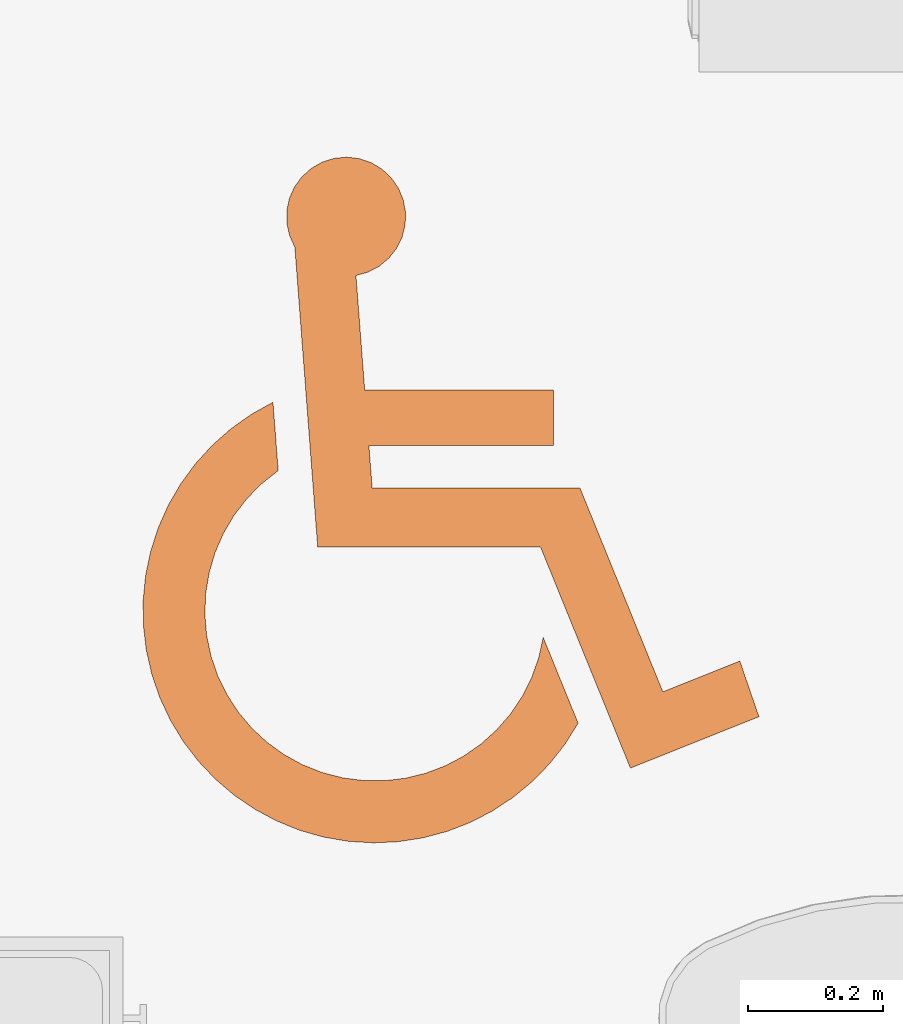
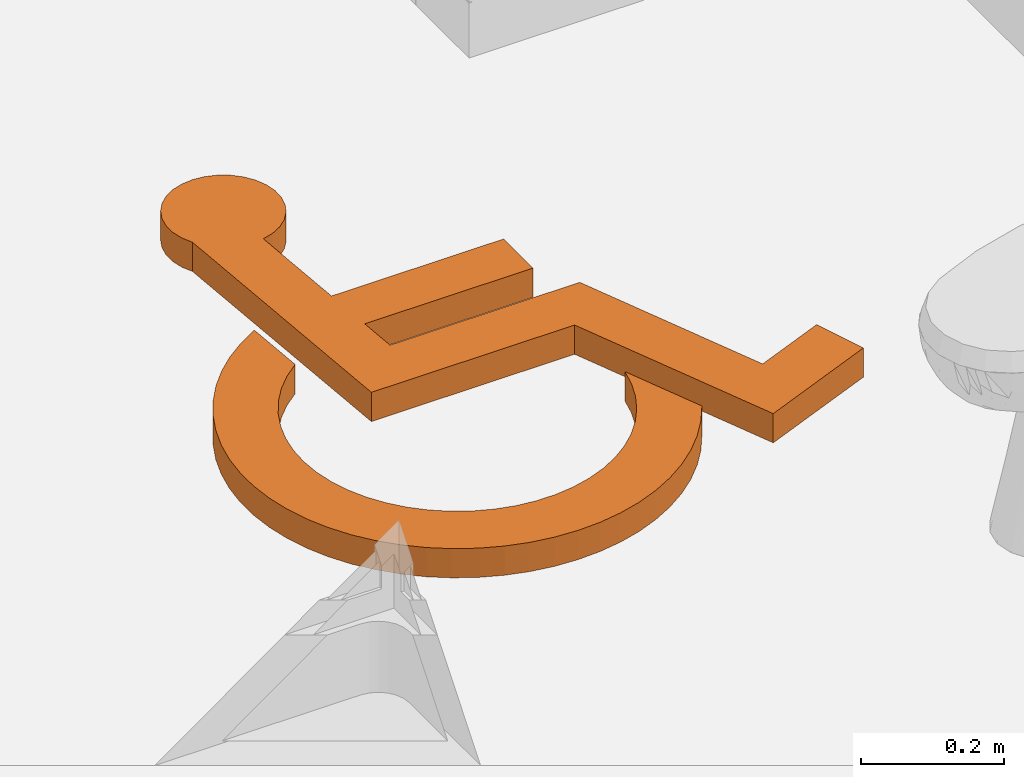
# One storey, part 43 of 44: 1 proxy.
"""IFC2X3 building model written with IfcOpenShell, lengths in millimetres."""

from ifc_helpers import new_model, entity, si_unit, converted_unit, direction, frame, frame_2d, origin, place, context, subcontext, project, spatial, polyline, circle_curve, parameter, trimmed, segment, composite_curve, outline, extrude, source, transform, mapped, material, type_object, type_shapes, element, save


model = new_model("IFC2X3")

# Units and contexts
model_context = context("Model", 3, precision=0.01, world=origin(), true_north=direction((0.0, 1.0)))
body_context = subcontext(model_context, "Body", "Model", "MODEL_VIEW")
ifc_project = project(units=[si_unit("LENGTHUNIT", "METRE", prefix="MILLI"), si_unit("AREAUNIT", "SQUARE_METRE"), si_unit("VOLUMEUNIT", "CUBIC_METRE"), converted_unit("PLANEANGLEUNIT", "DEGREE", entity("IfcPlaneAngleMeasure", 0.017453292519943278), si_unit("PLANEANGLEUNIT", "RADIAN"), dimensions=[0, 0, 0, 0, 0, 0, 0])], contexts=[model_context])

# Site, building, storey, space
site_placement = place(None, origin())
site = spatial("IfcSite", under=ifc_project, at=site_placement, Name="Default", CompositionType="ELEMENT")
building_placement = place(site_placement, origin())
building = spatial("IfcBuilding", under=site, at=building_placement, CompositionType="ELEMENT")
storey_placement = place(building_placement, frame((0.0, 0.0, 2681.0)))
storey = spatial("IfcBuildingStorey", under=building, at=storey_placement, Name="Et. 2", CompositionType="ELEMENT", Elevation=2681.0)
space_placement = place(storey_placement, origin())
space = spatial("IfcSpace", under=storey, at=space_placement, Name="207", CompositionType="ELEMENT", InteriorOrExteriorSpace="INTERNAL")

# Proxy
ifc_material = material(Name="<Unnamed>")
building_element_proxy_type = type_object("IfcBuildingElementProxyType", Name="HC-Sirkel:HC-Sirkel 1500", PredefinedType="NOTDEFINED", material=ifc_material)
shared_shape = source(origin(), body_context, "Body", "SweptSolid", [
    extrude(outline(composite_curve([segment(polyline([(73.08456968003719, 24.171348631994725), (425.99666421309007, 24.171348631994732)]), True, "CONTINUOUS"), segment(polyline([(425.99666421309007, 24.171348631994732), (427.1926952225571, 228.68994682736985)]), True, "CONTINUOUS"), segment(polyline([(427.1926952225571, 228.68994682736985), (340.35156526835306, 233.53866508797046)]), True, "CONTINUOUS"), segment(polyline([(340.35156526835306, 233.53866508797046), (339.63518552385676, 111.0393486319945)]), True, "CONTINUOUS"), segment(polyline([(339.6351855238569, 111.03934863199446), (14.63240316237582, 111.0393486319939)]), True, "CONTINUOUS"), segment(polyline([(14.63240316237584, 111.03934863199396), (-101.05350558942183, -173.4621822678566)]), True, "CONTINUOUS"), segment(polyline([(-101.05350558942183, -173.4621822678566), (-161.10905457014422, -154.21614490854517)]), True, "CONTINUOUS"), segment(polyline([(-161.10905457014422, -154.21614490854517), (-58.48199197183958, 98.17031024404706)]), True, "CONTINUOUS"), segment(polyline([(-58.48199197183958, 98.17031024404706), (-134.6802137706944, 129.15453906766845)]), True, "CONTINUOUS"), segment(polyline([(-134.6802137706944, 129.15453906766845), (-239.66899573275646, -129.0399940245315)]), True, "CONTINUOUS"), segment(polyline([(-239.66899573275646, -129.0399940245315), (-401.0728035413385, -77.3148201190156)]), True, "CONTINUOUS"), segment(trimmed(circle_curve(frame_2d((-487.01248088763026, -58.10761128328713), x_axis=(0.37667652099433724, 0.9263448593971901)), 88.05989446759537), [parameter(279.52961143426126)], [parameter(210.67771042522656)], True, "PARAMETER"), True, "CONTINUOUS"), segment(polyline([(-473.920796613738, -145.1889113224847), (-50.905721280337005, -280.7528031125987)]), True, "CONTINUOUS"), segment(polyline([(-50.905721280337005, -280.7528031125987), (73.08456968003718, 24.171348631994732)]), True, "CONTINUOUS")], self_intersect=False)), frame((126.0677393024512, 10.200709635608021, 0.0), z_axis=(0.0, 0.0, 1.0), x_axis=(0.3766765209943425, -0.9263448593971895, 0.0)), (0.0, 0.0, 1.0), 49.99999999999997),
    extrude(outline(composite_curve([segment(trimmed(circle_curve(frame_2d((-72.25049651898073, -69.30966368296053), x_axis=(-0.07600280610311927, 0.9971076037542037)), 251.58701275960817), [parameter(9.02057374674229)], [parameter(235.3157901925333)], True, "PARAMETER"), False, "CONTINUOUS"), segment(polyline([(-130.467335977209, 175.44904319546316), (-260.8342111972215, 217.2277929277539)]), True, "CONTINUOUS"), segment(trimmed(circle_curve(frame_2d((-72.25049651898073, -69.30966368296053), x_axis=(-0.07600280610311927, 0.9971076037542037)), 343.02701275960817), [parameter(28.991942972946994)], [parameter(243.9059842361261)], True, "PARAMETER"), True, "CONTINUOUS"), segment(polyline([(246.38915425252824, -196.3384180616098), (144.9123929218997, -196.33841806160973)]), True, "CONTINUOUS")], self_intersect=False)), frame((-4.764332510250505, -65.4156728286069, 0.0), z_axis=(0.0, 0.0, -1.0), x_axis=(-0.07600280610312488, 0.997107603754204, 0.0)), (0.0, 0.0, -1.0), 50.0),
])
type_shapes(building_element_proxy_type, [shared_shape])
proxy_placement = place(space_placement, frame((20946.009586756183, 12279.058719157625, 0.0)))
element("IfcBuildingElementProxy", 1, at=proxy_placement, inside=space, type_object=building_element_proxy_type, material=ifc_material, Name="HC-Sirkel:HC-Sirkel 1500", context=body_context, shape_type="MappedRepresentation", body=[
    mapped(shared_shape, transform((0.0, 0.0, 0.0), scale=1.0)),
])

save(model, "model.ifc")
